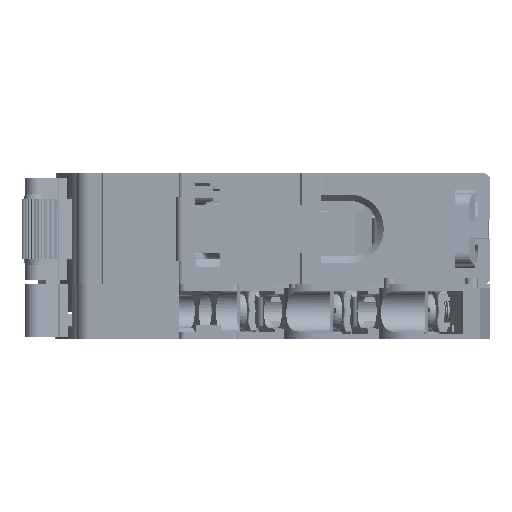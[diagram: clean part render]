
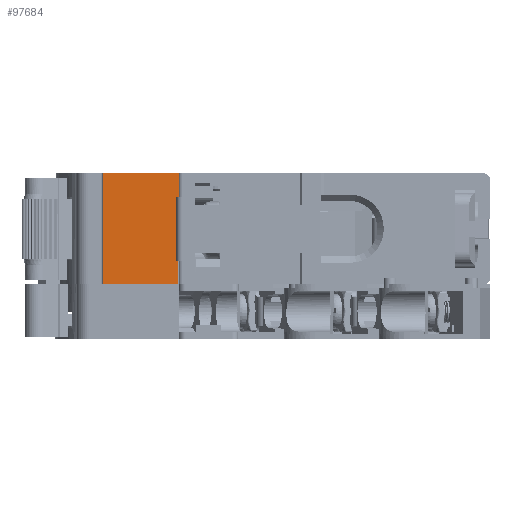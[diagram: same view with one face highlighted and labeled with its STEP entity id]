
A CAD part, left-side view. The second image highlights one B-rep face of the part: STEP entity #97684.
In plain terms, the highlighted planar face has unit normal (-1, 0, 0) as drawn and (1, 0, 0) by its records, which use the part's own axes.
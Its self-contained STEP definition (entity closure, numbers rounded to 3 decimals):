
#773 = VERTEX_POINT ( 'NONE', #249548 ) ;
#1393 = VERTEX_POINT ( 'NONE', #91849 ) ;
#7393 = LINE ( 'NONE', #43710, #167031 ) ;
#15288 = ORIENTED_EDGE ( 'NONE', *, *, #123218, .F. ) ;
#19134 = VECTOR ( 'NONE', #79066, 1000. ) ;
#21698 = ORIENTED_EDGE ( 'NONE', *, *, #89789, .T. ) ;
#25758 = EDGE_CURVE ( 'NONE', #266128, #162009, #113935, .T. ) ;
#28812 = VERTEX_POINT ( 'NONE', #224269 ) ;
#29192 = LINE ( 'NONE', #205459, #19134 ) ;
#29324 = ORIENTED_EDGE ( 'NONE', *, *, #194710, .T. ) ;
#30529 = VERTEX_POINT ( 'NONE', #270888 ) ;
#34462 = DIRECTION ( 'NONE',  ( 0., -1., 0. ) ) ;
#39598 = DIRECTION ( 'NONE',  ( 0., 0., -1. ) ) ;
#40353 = LINE ( 'NONE', #106121, #264729 ) ;
#40588 = CARTESIAN_POINT ( 'NONE',  ( -14.161, 72.5, 14.2 ) ) ;
#42419 = LINE ( 'NONE', #256168, #113767 ) ;
#43710 = CARTESIAN_POINT ( 'NONE',  ( -14.161, 41.647, -3.4 ) ) ;
#45607 = AXIS2_PLACEMENT_3D ( 'NONE', #208087, #251808, #120647 ) ;
#49402 = ORIENTED_EDGE ( 'NONE', *, *, #96063, .T. ) ;
#63975 = CARTESIAN_POINT ( 'NONE',  ( -14.161, 47.366, 0.4 ) ) ;
#67122 = EDGE_CURVE ( 'NONE', #1393, #136522, #150931, .T. ) ;
#67430 = DIRECTION ( 'NONE',  ( 0., 1., 0. ) ) ;
#67686 = CARTESIAN_POINT ( 'NONE',  ( -14.161, 46.966, -3.4 ) ) ;
#68516 = CARTESIAN_POINT ( 'NONE',  ( -14.161, 47.016, 5.3 ) ) ;
#69262 = CARTESIAN_POINT ( 'NONE',  ( -14.161, 46.789, 5.4 ) ) ;
#78185 = CARTESIAN_POINT ( 'NONE',  ( -14.161, 46.767, 10.057 ) ) ;
#79066 = DIRECTION ( 'NONE',  ( 0., 0., -1. ) ) ;
#79424 = LINE ( 'NONE', #68516, #181343 ) ;
#84969 = VECTOR ( 'NONE', #140127, 1000. ) ;
#89789 = EDGE_CURVE ( 'NONE', #171904, #138224, #191109, .T. ) ;
#91849 = CARTESIAN_POINT ( 'NONE',  ( -14.161, 58.87, 14.2 ) ) ;
#96063 = EDGE_CURVE ( 'NONE', #114307, #28812, #7393, .T. ) ;
#96623 = VECTOR ( 'NONE', #34462, 1000. ) ;
#97684 = ADVANCED_FACE ( 'NONE', ( #105134 ), #164357, .T. ) ;
#100080 = EDGE_CURVE ( 'NONE', #138224, #114307, #29192, .T. ) ;
#100371 = ORIENTED_EDGE ( 'NONE', *, *, #67122, .T. ) ;
#102269 = CARTESIAN_POINT ( 'NONE',  ( -14.161, 46.767, 6.83 ) ) ;
#103710 = ORIENTED_EDGE ( 'NONE', *, *, #113162, .T. ) ;
#105134 = FACE_OUTER_BOUND ( 'NONE', #128079, .T. ) ;
#106121 = CARTESIAN_POINT ( 'NONE',  ( -14.161, 58.87, 5.3 ) ) ;
#113162 = EDGE_CURVE ( 'NONE', #28812, #1393, #40353, .T. ) ;
#113767 = VECTOR ( 'NONE', #39598, 1000. ) ;
#113935 = LINE ( 'NONE', #69262, #233122 ) ;
#114307 = VERTEX_POINT ( 'NONE', #67686 ) ;
#120647 = DIRECTION ( 'NONE',  ( 0., 0., 1. ) ) ;
#123218 = EDGE_CURVE ( 'NONE', #185747, #773, #140608, .T. ) ;
#123622 = CARTESIAN_POINT ( 'NONE',  ( -14.161, 20.464, 5.4 ) ) ;
#128079 = EDGE_LOOP ( 'NONE', ( #238206, #49402, #103710, #100371, #29324, #15288, #161896, #239752, #267487, #275596, #21698 ) ) ;
#133346 = VECTOR ( 'NONE', #251065, 1000. ) ;
#135839 = CARTESIAN_POINT ( 'NONE',  ( -14.161, 46.789, 5.4 ) ) ;
#136522 = VERTEX_POINT ( 'NONE', #165096 ) ;
#137689 = DIRECTION ( 'NONE',  ( 0., 1., 0. ) ) ;
#138224 = VERTEX_POINT ( 'NONE', #270661 ) ;
#140127 = DIRECTION ( 'NONE',  ( 0., 0., -1. ) ) ;
#140608 = LINE ( 'NONE', #266940, #171174 ) ;
#150931 = LINE ( 'NONE', #40588, #256400 ) ;
#161896 = ORIENTED_EDGE ( 'NONE', *, *, #276302, .T. ) ;
#162009 = VERTEX_POINT ( 'NONE', #102269 ) ;
#164357 = PLANE ( 'NONE',  #45607 ) ;
#165096 = CARTESIAN_POINT ( 'NONE',  ( -14.161, 47.016, 14.2 ) ) ;
#167031 = VECTOR ( 'NONE', #67430, 1000. ) ;
#171174 = VECTOR ( 'NONE', #137689, 1000. ) ;
#171904 = VERTEX_POINT ( 'NONE', #63975 ) ;
#181343 = VECTOR ( 'NONE', #220549, 1000. ) ;
#185747 = VERTEX_POINT ( 'NONE', #78185 ) ;
#190404 = LINE ( 'NONE', #272172, #84969 ) ;
#191109 = LINE ( 'NONE', #227400, #133346 ) ;
#194710 = EDGE_CURVE ( 'NONE', #136522, #773, #79424, .T. ) ;
#205459 = CARTESIAN_POINT ( 'NONE',  ( -14.161, 46.966, 5.3 ) ) ;
#208087 = CARTESIAN_POINT ( 'NONE',  ( -14.161, 72.5, 5.3 ) ) ;
#220549 = DIRECTION ( 'NONE',  ( 0., 0., -1. ) ) ;
#224269 = CARTESIAN_POINT ( 'NONE',  ( -14.161, 58.87, -3.4 ) ) ;
#227400 = CARTESIAN_POINT ( 'NONE',  ( -14.161, 22.5, 0.4 ) ) ;
#229169 = LINE ( 'NONE', #123622, #96623 ) ;
#232089 = EDGE_CURVE ( 'NONE', #30529, #266128, #229169, .T. ) ;
#233122 = VECTOR ( 'NONE', #264965, 1000. ) ;
#235369 = EDGE_CURVE ( 'NONE', #30529, #171904, #190404, .T. ) ;
#237210 = DIRECTION ( 'NONE',  ( 0., -1., 0. ) ) ;
#238206 = ORIENTED_EDGE ( 'NONE', *, *, #100080, .T. ) ;
#239752 = ORIENTED_EDGE ( 'NONE', *, *, #25758, .F. ) ;
#249548 = CARTESIAN_POINT ( 'NONE',  ( -14.161, 47.016, 10.057 ) ) ;
#251065 = DIRECTION ( 'NONE',  ( 0., -1., 0. ) ) ;
#251808 = DIRECTION ( 'NONE',  ( 1., 0., 0. ) ) ;
#256168 = CARTESIAN_POINT ( 'NONE',  ( -14.161, 46.767, 5.3 ) ) ;
#256400 = VECTOR ( 'NONE', #237210, 1000. ) ;
#264729 = VECTOR ( 'NONE', #280882, 1000. ) ;
#264965 = DIRECTION ( 'NONE',  ( 0., -0.016, 1. ) ) ;
#266128 = VERTEX_POINT ( 'NONE', #135839 ) ;
#266940 = CARTESIAN_POINT ( 'NONE',  ( -14.161, 22.5, 10.057 ) ) ;
#267487 = ORIENTED_EDGE ( 'NONE', *, *, #232089, .F. ) ;
#270661 = CARTESIAN_POINT ( 'NONE',  ( -14.161, 46.966, 0.4 ) ) ;
#270888 = CARTESIAN_POINT ( 'NONE',  ( -14.161, 47.366, 5.4 ) ) ;
#272172 = CARTESIAN_POINT ( 'NONE',  ( -14.161, 47.366, 5.3 ) ) ;
#275596 = ORIENTED_EDGE ( 'NONE', *, *, #235369, .T. ) ;
#276302 = EDGE_CURVE ( 'NONE', #185747, #162009, #42419, .T. ) ;
#280882 = DIRECTION ( 'NONE',  ( 0., 0., 1. ) ) ;
